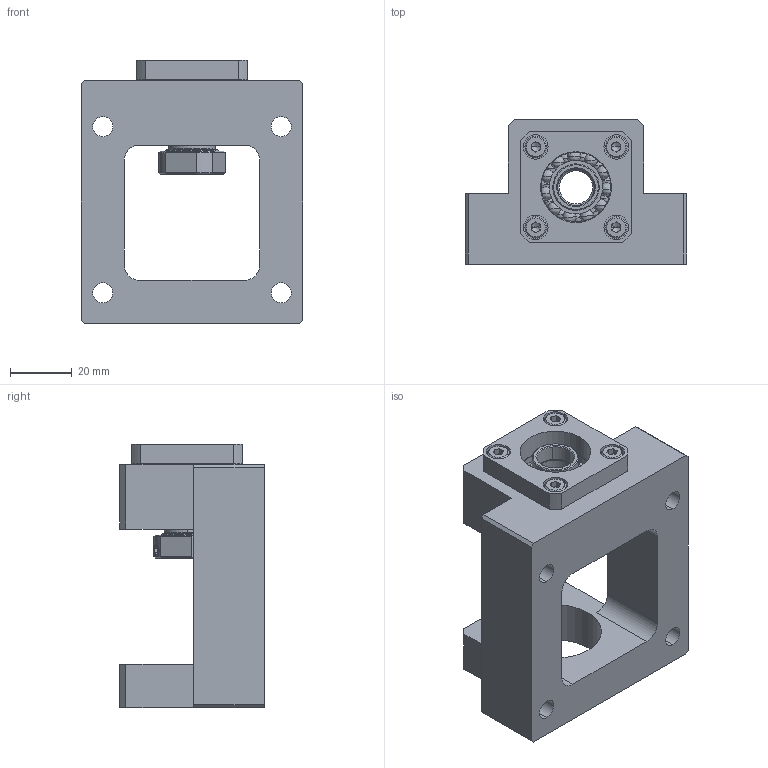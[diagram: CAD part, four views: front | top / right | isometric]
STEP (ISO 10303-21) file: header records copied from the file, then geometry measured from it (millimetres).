
FILE_DESCRIPTION (( 'STEP AP203' ), '1' );
FILE_NAME ('SBJU12A.STEP', '2009-05-29T02:52:25', ( '冠犁泅' ), ( '俺惯何' ), 'SwSTEP 2.0', 'SolidWorks 2007', '' );
FILE_SCHEMA (( 'CONFIG_CONTROL_DESIGN' ));
Length unit declared in the file: millimetre
Products named in the file (9): SBJU12A; Socket Head Cap Screw_AM_B18.3.1M - 4 x 0.7 x 12 Hex SHCS -- 8NHX_B18.3.1M - 4 x 0.7 x 8 Hex SHCS -- 8NHX; SBJU-12A-Housing_ル遽; 7001adf_ル遽; K12_EK_AK_FK12(COLLAR)_晦獄 撲薑; RN12_晦獄 撲薑; SET PIECE_白3.1x1_晦獄 撲薑; Socket Set Screw Flat Point_AM_B18.3.6M - M4 x 0.7 x 4 Hex Socket Flat Pt. SS --N_B18.3.6M - M4 x 0.7 x 4 Hex Socket Flat Pt. SS --N; SBJU-12-Housing Lid_ル遽
Assembly tree (12 placements, depth 2):
  SBJU12A
    SBJU-12-Housing Lid_ル遽
    Socket Head Cap Screw_AM_B18.3.1M - 4 x 0.7 x 12 Hex SHCS -- 8NHX_B18.3.1M - 4 x 0.7 x 8 Hex SHCS -- 8NHX  x4
    RN12_晦獄 撲薑
    K12_EK_AK_FK12(COLLAR)_晦獄 撲薑  x2
    SBJU-12A-Housing_ル遽
    SET PIECE_白3.1x1_晦獄 撲薑
    7001adf_ル遽
    Socket Set Screw Flat Point_AM_B18.3.6M - M4 x 0.7 x 4 Hex Socket Flat Pt. SS --N_B18.3.6M - M4 x 0.7 x 4 Hex Socket Flat Pt. SS --N
Bounding box: 72 x 47 x 85.5 mm (x, y, z)
Volume: 105996 mm3; surface area: 41587.9 mm2
Topology: 11 solids, 36 shells, 420 faces, 991 edges, 554 vertices
Faces by surface type: plane 133, cylinder 123, cone 80, bspline 76, torus 8
Entity records: 11563 total; most frequent: CARTESIAN_POINT 3557, DIRECTION 1523, ORIENTED_EDGE 1354, EDGE_CURVE 679, AXIS2_PLACEMENT_3D 612, VERTEX_POINT 435, EDGE_LOOP 380, CIRCLE 347
